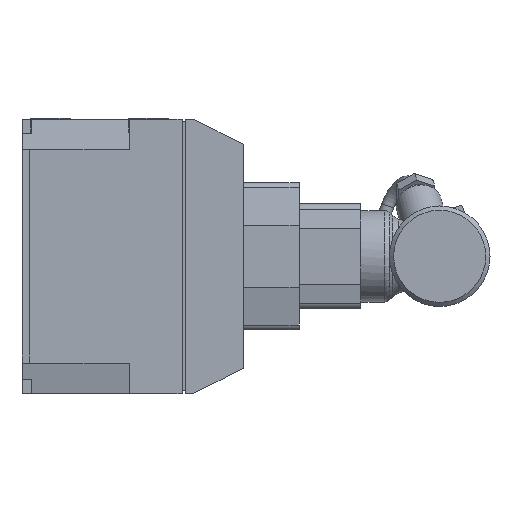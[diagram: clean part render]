
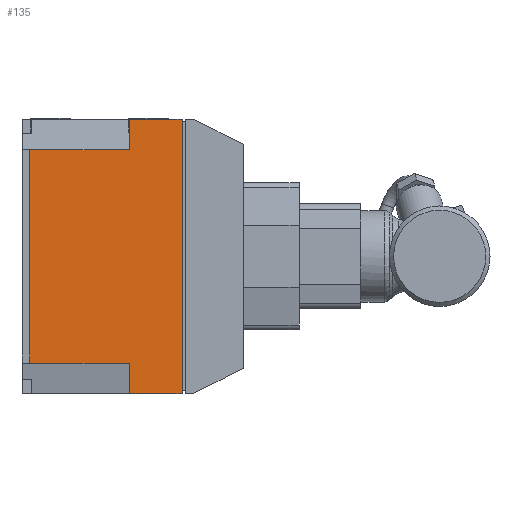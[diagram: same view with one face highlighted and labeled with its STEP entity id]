
A CAD part, left-side view. The second image highlights one B-rep face of the part: STEP entity #135.
In plain terms, the highlighted planar face has unit normal (-1, 0, 0).
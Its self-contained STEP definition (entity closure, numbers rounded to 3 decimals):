
#135 = ADVANCED_FACE( '', ( #430 ), #431, .F. );
#430 = FACE_OUTER_BOUND( '', #1015, .T. );
#431 = PLANE( '', #1016 );
#1015 = EDGE_LOOP( '', ( #1824, #1825, #1826, #1827, #1828, #1829, #1830, #1831 ) );
#1016 = AXIS2_PLACEMENT_3D( '', #1832, #1833, #1834 );
#1824 = ORIENTED_EDGE( '', *, *, #3757, .F. );
#1825 = ORIENTED_EDGE( '', *, *, #3758, .F. );
#1826 = ORIENTED_EDGE( '', *, *, #3759, .F. );
#1827 = ORIENTED_EDGE( '', *, *, #3748, .F. );
#1828 = ORIENTED_EDGE( '', *, *, #3760, .T. );
#1829 = ORIENTED_EDGE( '', *, *, #3718, .F. );
#1830 = ORIENTED_EDGE( '', *, *, #3761, .F. );
#1831 = ORIENTED_EDGE( '', *, *, #3762, .T. );
#1832 = CARTESIAN_POINT( '', ( -5.5, 0., 0. ) );
#1833 = DIRECTION( '', ( 1., 0., 0. ) );
#1834 = DIRECTION( '', ( 0., 0., -1. ) );
#3718 = EDGE_CURVE( '', #4443, #4445, #4446, .T. );
#3748 = EDGE_CURVE( '', #4501, #4503, #4504, .T. );
#3757 = EDGE_CURVE( '', #4520, #4521, #4522, .T. );
#3758 = EDGE_CURVE( '', #4523, #4520, #4524, .T. );
#3759 = EDGE_CURVE( '', #4503, #4523, #4525, .T. );
#3760 = EDGE_CURVE( '', #4501, #4445, #4526, .T. );
#3761 = EDGE_CURVE( '', #4527, #4443, #4528, .T. );
#3762 = EDGE_CURVE( '', #4527, #4521, #4529, .T. );
#4443 = VERTEX_POINT( '', #5615 );
#4445 = VERTEX_POINT( '', #5618 );
#4446 = LINE( '', #5619, #5620 );
#4501 = VERTEX_POINT( '', #5703 );
#4503 = VERTEX_POINT( '', #5706 );
#4504 = LINE( '', #5707, #5708 );
#4520 = VERTEX_POINT( '', #5732 );
#4521 = VERTEX_POINT( '', #5733 );
#4522 = LINE( '', #5734, #5735 );
#4523 = VERTEX_POINT( '', #5736 );
#4524 = LINE( '', #5737, #5738 );
#4525 = LINE( '', #5739, #5740 );
#4526 = LINE( '', #5741, #5742 );
#4527 = VERTEX_POINT( '', #5743 );
#4528 = LINE( '', #5744, #5745 );
#4529 = LINE( '', #5746, #5747 );
#5615 = CARTESIAN_POINT( '', ( -5.5, 101.8, 45. ) );
#5618 = CARTESIAN_POINT( '', ( -5.5, 84.5, 45. ) );
#5619 = CARTESIAN_POINT( '', ( -5.5, 137., 45. ) );
#5620 = VECTOR( '', #7517, 1000. );
#5703 = CARTESIAN_POINT( '', ( -5.5, 84.5, -45. ) );
#5706 = CARTESIAN_POINT( '', ( -5.5, 101.8, -45. ) );
#5707 = CARTESIAN_POINT( '', ( -5.5, 80.7, -45. ) );
#5708 = VECTOR( '', #7547, 1000. );
#5732 = CARTESIAN_POINT( '', ( -5.5, 134.5, -35. ) );
#5733 = CARTESIAN_POINT( '', ( -5.5, 134.5, 35. ) );
#5734 = CARTESIAN_POINT( '', ( -5.5, 134.5, -45. ) );
#5735 = VECTOR( '', #7556, 1000. );
#5736 = CARTESIAN_POINT( '', ( -5.5, 101.8, -35. ) );
#5737 = CARTESIAN_POINT( '', ( -5.5, 101.8, -35. ) );
#5738 = VECTOR( '', #7557, 1000. );
#5739 = CARTESIAN_POINT( '', ( -5.5, 101.8, 0. ) );
#5740 = VECTOR( '', #7558, 1000. );
#5741 = CARTESIAN_POINT( '', ( -5.5, 84.5, 0. ) );
#5742 = VECTOR( '', #7559, 1000. );
#5743 = CARTESIAN_POINT( '', ( -5.5, 101.8, 35. ) );
#5744 = CARTESIAN_POINT( '', ( -5.5, 101.8, 0. ) );
#5745 = VECTOR( '', #7560, 1000. );
#5746 = CARTESIAN_POINT( '', ( -5.5, 101.8, 35. ) );
#5747 = VECTOR( '', #7561, 1000. );
#7517 = DIRECTION( '', ( 0., -1., 0. ) );
#7547 = DIRECTION( '', ( 0., 1., 0. ) );
#7556 = DIRECTION( '', ( 0., 0., 1. ) );
#7557 = DIRECTION( '', ( 0., 1., 0. ) );
#7558 = DIRECTION( '', ( 0., 0., 1. ) );
#7559 = DIRECTION( '', ( 0., 0., 1. ) );
#7560 = DIRECTION( '', ( 0., 0., 1. ) );
#7561 = DIRECTION( '', ( 0., 1., 0. ) );
